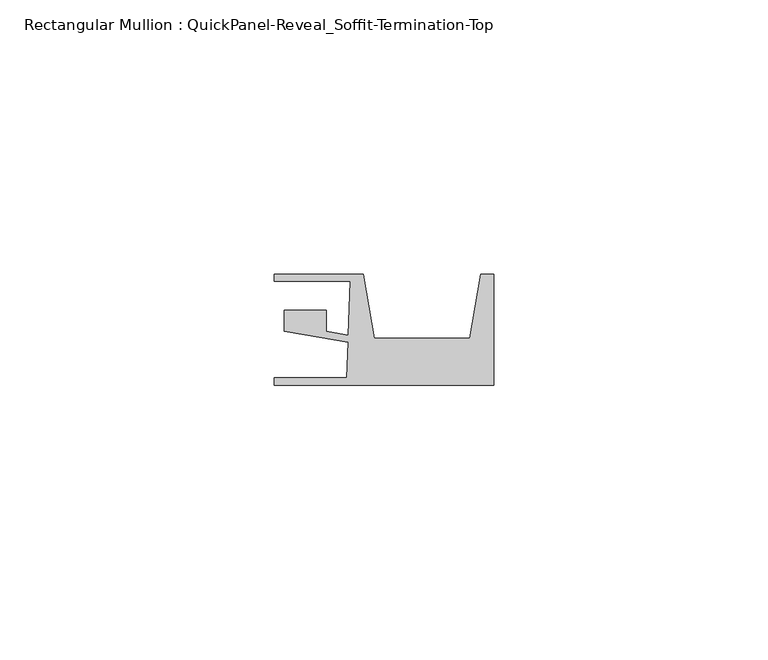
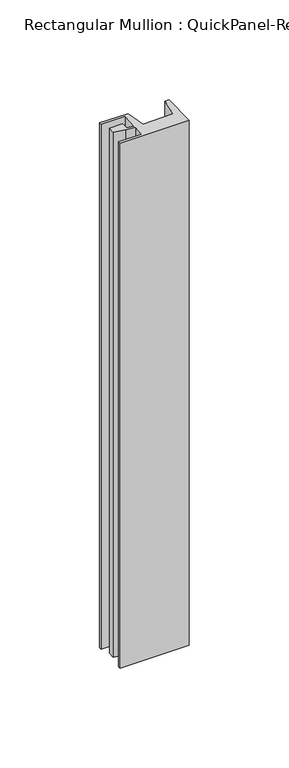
"""IFC4 building model written with IfcOpenShell, lengths in millimetres: member geometry, Rectangular Mullion : QuickPanel-Reveal_Soffit-Termination-Top."""

from ifc_helpers import new_model, si_unit, frame, origin, place, context, project, spatial, polyline, outline, extrude, source, transform, mapped, element, save


def rectangular_mullion_quickpanel_reveal_soffit_termination_top_a8f51e91(model_context):
    return source(origin(), model_context, "Body", "SweptSolid", [
        extrude(outline(polyline([(-40.0272216, -8.095605), (-40.0272216, -6.6935423), (-26.7863089, -6.6935423), (-26.5595237, -0.1992641), (-31.8098046, 0.7008023), (-38.2451373, 1.8040245), (-38.2451373, 5.6493034), (-30.5003642, 5.6493034), (-30.5003642, 1.7648465), (-26.5147952, 1.0815922), (-26.1708682, 10.9303752), (-40.0272216, 10.9303752), (-40.0272216, 12.1803727), (-23.8142192, 12.1803727), (-21.8189903, 0.5417732), (-4.3518779, 0.5417732), (-2.3566489, 12.1803727), (0.0, 12.1803727), (0.0, -8.095605), (-40.0272216, -8.095605)])), frame((0.0, 0.0, -320.6579255), z_axis=(0.0, 0.0, 1.0), x_axis=(1.0, 0.0, 0.0)), (0.0, 0.0, 1.0), 320.6579255),
    ])


if __name__ == "__main__":
    model = new_model("IFC4")
    model_context = context("Model", 3, world=origin())
    ifc_project = project(units=[si_unit("LENGTHUNIT", "METRE", prefix="MILLI")], contexts=[model_context])
    site = spatial("IfcSite", under=ifc_project)
    building = spatial("IfcBuilding", under=site)
    placement = place(None, origin())
    rectangular_mullion_quickpanel_reveal_soffit_termination_top_shape = rectangular_mullion_quickpanel_reveal_soffit_termination_top_a8f51e91(model_context)
    element("IfcMember", 1, ObjectType="Rectangular Mullion : QuickPanel-Reveal_Soffit-Termination-Top", at=placement, inside=building, context=model_context, shape_type="MappedRepresentation", body=[
        mapped(rectangular_mullion_quickpanel_reveal_soffit_termination_top_shape, transform((0.0, 0.0, 0.0), x_axis=(1.0, 0.0, 0.0), y_axis=(0.0, 1.0, 0.0), z_axis=(0.0, 0.0, 1.0))),
    ])
    save(model, "model.ifc")
